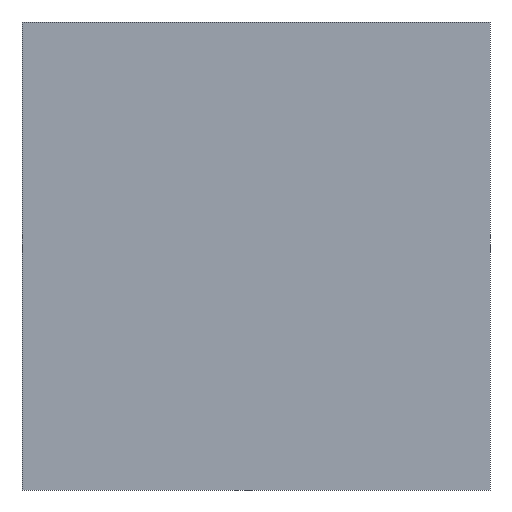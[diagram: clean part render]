
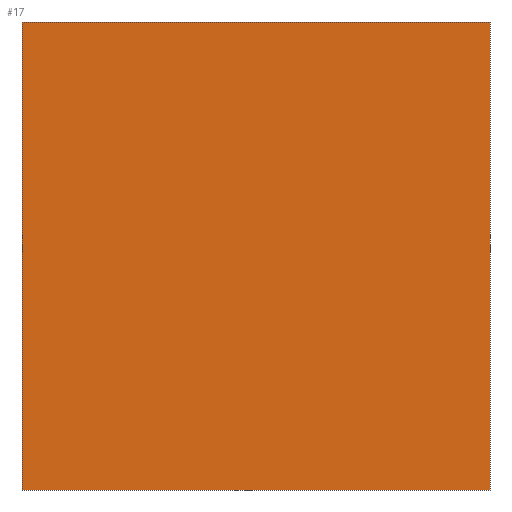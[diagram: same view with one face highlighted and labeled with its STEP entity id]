
A CAD part, front view. The second image highlights one B-rep face of the part: STEP entity #17.
In plain terms, the highlighted planar face has unit normal (0, -1, 0).
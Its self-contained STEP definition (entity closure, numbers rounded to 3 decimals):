
#17 = ADVANCED_FACE('',(#18),#32,.F.);
#18 = FACE_BOUND('',#19,.F.);
#19 = EDGE_LOOP('',(#20,#55,#83,#111));
#20 = ORIENTED_EDGE('',*,*,#21,.T.);
#21 = EDGE_CURVE('',#22,#24,#26,.T.);
#22 = VERTEX_POINT('',#23);
#23 = CARTESIAN_POINT('',(0.,0.,0.));
#24 = VERTEX_POINT('',#25);
#25 = CARTESIAN_POINT('',(0.,0.,7.));
#26 = SURFACE_CURVE('',#27,(#31,#43),.PCURVE_S1.);
#27 = LINE('',#28,#29);
#28 = CARTESIAN_POINT('',(0.,0.,0.));
#29 = VECTOR('',#30,1.);
#30 = DIRECTION('',(0.,0.,1.));
#31 = PCURVE('',#32,#37);
#32 = PLANE('',#33);
#33 = AXIS2_PLACEMENT_3D('',#34,#35,#36);
#34 = CARTESIAN_POINT('',(0.,0.,0.));
#35 = DIRECTION('',(0.,1.,0.));
#36 = DIRECTION('',(1.,0.,0.));
#37 = DEFINITIONAL_REPRESENTATION('',(#38),#42);
#38 = LINE('',#39,#40);
#39 = CARTESIAN_POINT('',(0.,0.));
#40 = VECTOR('',#41,1.);
#41 = DIRECTION('',(0.,-1.));
#42 = ( GEOMETRIC_REPRESENTATION_CONTEXT(2) 
PARAMETRIC_REPRESENTATION_CONTEXT() REPRESENTATION_CONTEXT('2D SPACE',''
  ) );
#43 = PCURVE('',#44,#49);
#44 = PLANE('',#45);
#45 = AXIS2_PLACEMENT_3D('',#46,#47,#48);
#46 = CARTESIAN_POINT('',(0.,45.,0.));
#47 = DIRECTION('',(1.,0.,0.));
#48 = DIRECTION('',(0.,-1.,0.));
#49 = DEFINITIONAL_REPRESENTATION('',(#50),#54);
#50 = LINE('',#51,#52);
#51 = CARTESIAN_POINT('',(45.,0.));
#52 = VECTOR('',#53,1.);
#53 = DIRECTION('',(0.,-1.));
#54 = ( GEOMETRIC_REPRESENTATION_CONTEXT(2) 
PARAMETRIC_REPRESENTATION_CONTEXT() REPRESENTATION_CONTEXT('2D SPACE',''
  ) );
#55 = ORIENTED_EDGE('',*,*,#56,.T.);
#56 = EDGE_CURVE('',#24,#57,#59,.T.);
#57 = VERTEX_POINT('',#58);
#58 = CARTESIAN_POINT('',(7.,0.,7.));
#59 = SURFACE_CURVE('',#60,(#64,#71),.PCURVE_S1.);
#60 = LINE('',#61,#62);
#61 = CARTESIAN_POINT('',(0.,0.,7.));
#62 = VECTOR('',#63,1.);
#63 = DIRECTION('',(1.,0.,0.));
#64 = PCURVE('',#32,#65);
#65 = DEFINITIONAL_REPRESENTATION('',(#66),#70);
#66 = LINE('',#67,#68);
#67 = CARTESIAN_POINT('',(0.,-7.));
#68 = VECTOR('',#69,1.);
#69 = DIRECTION('',(1.,0.));
#70 = ( GEOMETRIC_REPRESENTATION_CONTEXT(2) 
PARAMETRIC_REPRESENTATION_CONTEXT() REPRESENTATION_CONTEXT('2D SPACE',''
  ) );
#71 = PCURVE('',#72,#77);
#72 = PLANE('',#73);
#73 = AXIS2_PLACEMENT_3D('',#74,#75,#76);
#74 = CARTESIAN_POINT('',(3.5,22.5,7.));
#75 = DIRECTION('',(0.,0.,1.));
#76 = DIRECTION('',(1.,0.,0.));
#77 = DEFINITIONAL_REPRESENTATION('',(#78),#82);
#78 = LINE('',#79,#80);
#79 = CARTESIAN_POINT('',(-3.5,-22.5));
#80 = VECTOR('',#81,1.);
#81 = DIRECTION('',(1.,0.));
#82 = ( GEOMETRIC_REPRESENTATION_CONTEXT(2) 
PARAMETRIC_REPRESENTATION_CONTEXT() REPRESENTATION_CONTEXT('2D SPACE',''
  ) );
#83 = ORIENTED_EDGE('',*,*,#84,.F.);
#84 = EDGE_CURVE('',#85,#57,#87,.T.);
#85 = VERTEX_POINT('',#86);
#86 = CARTESIAN_POINT('',(7.,0.,0.));
#87 = SURFACE_CURVE('',#88,(#92,#99),.PCURVE_S1.);
#88 = LINE('',#89,#90);
#89 = CARTESIAN_POINT('',(7.,0.,0.));
#90 = VECTOR('',#91,1.);
#91 = DIRECTION('',(0.,0.,1.));
#92 = PCURVE('',#32,#93);
#93 = DEFINITIONAL_REPRESENTATION('',(#94),#98);
#94 = LINE('',#95,#96);
#95 = CARTESIAN_POINT('',(7.,0.));
#96 = VECTOR('',#97,1.);
#97 = DIRECTION('',(0.,-1.));
#98 = ( GEOMETRIC_REPRESENTATION_CONTEXT(2) 
PARAMETRIC_REPRESENTATION_CONTEXT() REPRESENTATION_CONTEXT('2D SPACE',''
  ) );
#99 = PCURVE('',#100,#105);
#100 = PLANE('',#101);
#101 = AXIS2_PLACEMENT_3D('',#102,#103,#104);
#102 = CARTESIAN_POINT('',(7.,0.,0.));
#103 = DIRECTION('',(-1.,0.,0.));
#104 = DIRECTION('',(0.,1.,0.));
#105 = DEFINITIONAL_REPRESENTATION('',(#106),#110);
#106 = LINE('',#107,#108);
#107 = CARTESIAN_POINT('',(0.,0.));
#108 = VECTOR('',#109,1.);
#109 = DIRECTION('',(0.,-1.));
#110 = ( GEOMETRIC_REPRESENTATION_CONTEXT(2) 
PARAMETRIC_REPRESENTATION_CONTEXT() REPRESENTATION_CONTEXT('2D SPACE',''
  ) );
#111 = ORIENTED_EDGE('',*,*,#112,.F.);
#112 = EDGE_CURVE('',#22,#85,#113,.T.);
#113 = SURFACE_CURVE('',#114,(#118,#125),.PCURVE_S1.);
#114 = LINE('',#115,#116);
#115 = CARTESIAN_POINT('',(0.,0.,0.));
#116 = VECTOR('',#117,1.);
#117 = DIRECTION('',(1.,0.,0.));
#118 = PCURVE('',#32,#119);
#119 = DEFINITIONAL_REPRESENTATION('',(#120),#124);
#120 = LINE('',#121,#122);
#121 = CARTESIAN_POINT('',(0.,0.));
#122 = VECTOR('',#123,1.);
#123 = DIRECTION('',(1.,0.));
#124 = ( GEOMETRIC_REPRESENTATION_CONTEXT(2) 
PARAMETRIC_REPRESENTATION_CONTEXT() REPRESENTATION_CONTEXT('2D SPACE',''
  ) );
#125 = PCURVE('',#126,#131);
#126 = PLANE('',#127);
#127 = AXIS2_PLACEMENT_3D('',#128,#129,#130);
#128 = CARTESIAN_POINT('',(3.5,22.5,0.));
#129 = DIRECTION('',(0.,0.,1.));
#130 = DIRECTION('',(1.,0.,0.));
#131 = DEFINITIONAL_REPRESENTATION('',(#132),#136);
#132 = LINE('',#133,#134);
#133 = CARTESIAN_POINT('',(-3.5,-22.5));
#134 = VECTOR('',#135,1.);
#135 = DIRECTION('',(1.,0.));
#136 = ( GEOMETRIC_REPRESENTATION_CONTEXT(2) 
PARAMETRIC_REPRESENTATION_CONTEXT() REPRESENTATION_CONTEXT('2D SPACE',''
  ) );
